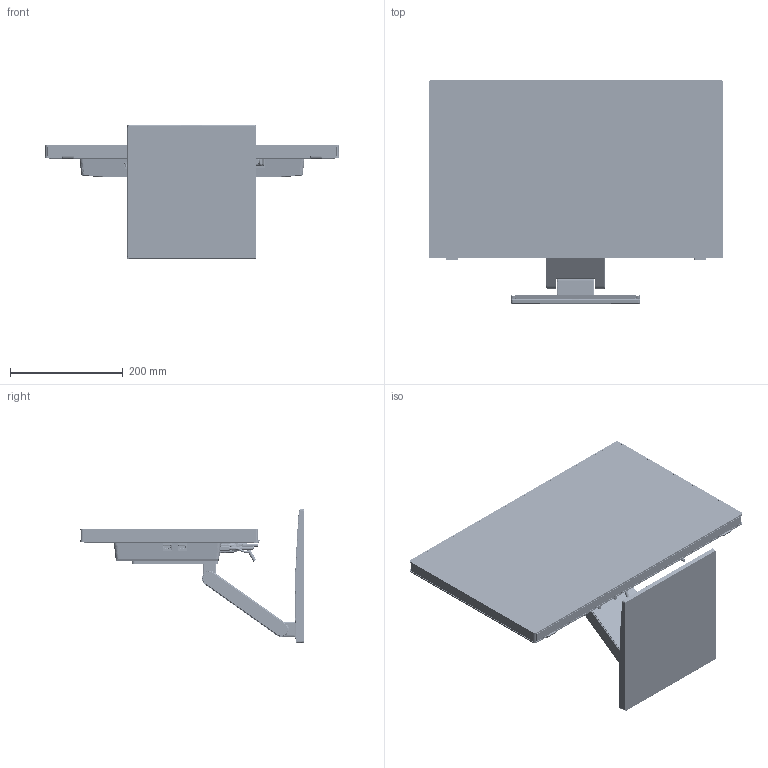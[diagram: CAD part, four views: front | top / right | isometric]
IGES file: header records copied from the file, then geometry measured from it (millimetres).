
Start section: SolidWorks IGES file using analytic representation for surfaces
Global section: file name: C:\Richard Folder\1195 Building\1195 Rich Directory\ECO-1005228_PCT2485_PCT2265_Cindy-Mc\997-7251-00_076-0766-00_PCT2265\SolidWorks_PCT2265\Final\997-7251-00.IGS; native system: SolidWorks 2013; preprocessor: SolidWorks 2013; author: RDavenport; date: 131203.165605; units: millimetre
Bounding box: 522.44 x 396.21 x 238.48 mm (x, y, z)
Surface area: 2460860.2 mm2 (no closed solid volume)
Topology: 0 solids, 0 shells, 15537 faces, 148153 edges, 148094 vertices
Faces by surface type: bspline 10672, revolution 4865
